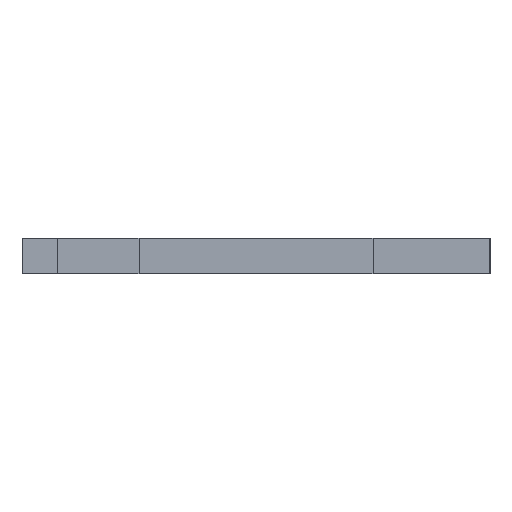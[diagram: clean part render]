
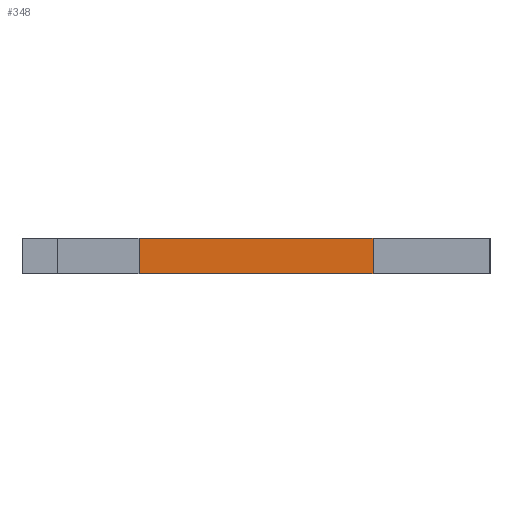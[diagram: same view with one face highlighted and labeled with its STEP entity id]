
A CAD part, left-side view. The second image highlights one B-rep face of the part: STEP entity #348.
In plain terms, the highlighted planar face has unit normal (-1, 0, 0).
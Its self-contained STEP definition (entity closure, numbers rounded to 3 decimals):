
#39 = VERTEX_POINT ( 'NONE', #417 ) ;
#44 = EDGE_CURVE ( 'NONE', #677, #39, #168, .T. ) ;
#48 = ORIENTED_EDGE ( 'NONE', *, *, #755, .F. ) ;
#80 = LINE ( 'NONE', #473, #452 ) ;
#82 = DIRECTION ( 'NONE',  ( 0., 1., 0. ) ) ;
#91 = DIRECTION ( 'NONE',  ( 1., 0., 0. ) ) ;
#168 = LINE ( 'NONE', #804, #667 ) ;
#230 = VERTEX_POINT ( 'NONE', #642 ) ;
#250 = DIRECTION ( 'NONE',  ( 0., 1., 0. ) ) ;
#254 = EDGE_LOOP ( 'NONE', ( #315, #48, #570, #343 ) ) ;
#313 = CARTESIAN_POINT ( 'NONE',  ( -189.5, 10., 0. ) ) ;
#315 = ORIENTED_EDGE ( 'NONE', *, *, #334, .T. ) ;
#334 = EDGE_CURVE ( 'NONE', #39, #230, #80, .T. ) ;
#341 = DIRECTION ( 'NONE',  ( 0., 0., 1. ) ) ;
#343 = ORIENTED_EDGE ( 'NONE', *, *, #44, .T. ) ;
#348 = ADVANCED_FACE ( 'NONE', ( #559 ), #726, .F. ) ;
#392 = CARTESIAN_POINT ( 'NONE',  ( -189.5, 10., 0. ) ) ;
#417 = CARTESIAN_POINT ( 'NONE',  ( -189.5, -10., 3. ) ) ;
#452 = VECTOR ( 'NONE', #250, 1000. ) ;
#461 = VECTOR ( 'NONE', #82, 1000. ) ;
#473 = CARTESIAN_POINT ( 'NONE',  ( -189.5, 10., 3. ) ) ;
#511 = LINE ( 'NONE', #979, #700 ) ;
#559 = FACE_OUTER_BOUND ( 'NONE', #254, .T. ) ;
#570 = ORIENTED_EDGE ( 'NONE', *, *, #899, .F. ) ;
#642 = CARTESIAN_POINT ( 'NONE',  ( -189.5, 10., 3. ) ) ;
#667 = VECTOR ( 'NONE', #733, 1000. ) ;
#668 = CARTESIAN_POINT ( 'NONE',  ( -189.5, -10., 0. ) ) ;
#677 = VERTEX_POINT ( 'NONE', #668 ) ;
#700 = VECTOR ( 'NONE', #341, 1000. ) ;
#726 = PLANE ( 'NONE',  #773 ) ;
#733 = DIRECTION ( 'NONE',  ( 0., 0., 1. ) ) ;
#755 = EDGE_CURVE ( 'NONE', #861, #230, #511, .T. ) ;
#773 = AXIS2_PLACEMENT_3D ( 'NONE', #881, #91, #945 ) ;
#804 = CARTESIAN_POINT ( 'NONE',  ( -189.5, -10., 0. ) ) ;
#861 = VERTEX_POINT ( 'NONE', #392 ) ;
#881 = CARTESIAN_POINT ( 'NONE',  ( -189.5, 10., 0. ) ) ;
#899 = EDGE_CURVE ( 'NONE', #677, #861, #1023, .T. ) ;
#945 = DIRECTION ( 'NONE',  ( 0., 0., -1. ) ) ;
#979 = CARTESIAN_POINT ( 'NONE',  ( -189.5, 10., 0. ) ) ;
#1023 = LINE ( 'NONE', #313, #461 ) ;
